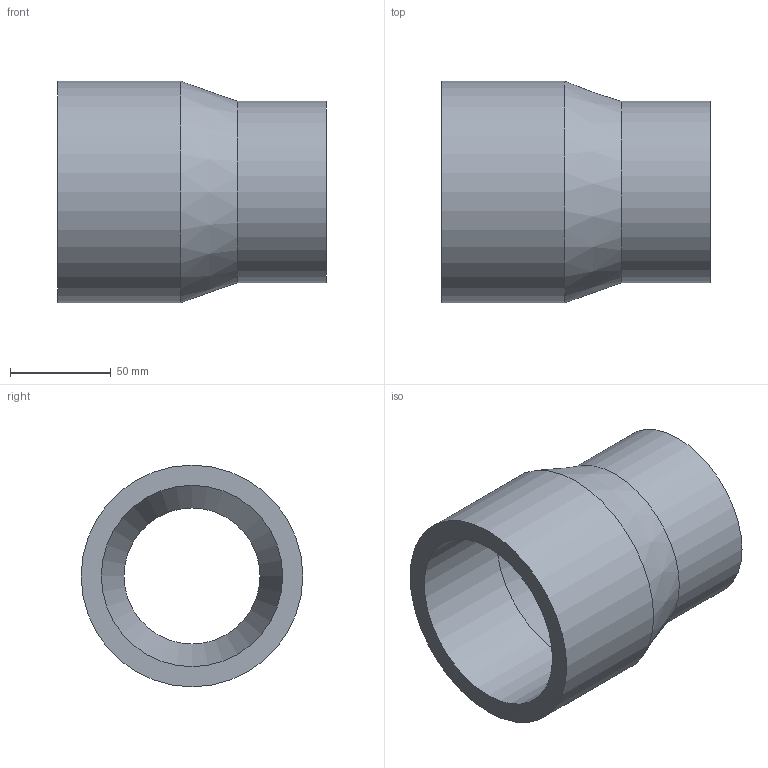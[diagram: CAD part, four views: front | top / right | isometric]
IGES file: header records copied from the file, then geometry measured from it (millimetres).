
Global section: file name: 050200110075.ipt; native system: Autodesk Inventor 2015; preprocessor: unknown; author: KIM; date: 20171207.164227; units: millimetre
Bounding box: 133 x 110 x 110 mm (x, y, z)
Volume: 383698.1 mm3; surface area: 83227 mm2
Topology: 1 solids, 1 shells, 10 faces, 23 edges, 16 vertices
Faces by surface type: revolution 4, plane 3, cylinder 2, cone 1
Full cylindrical faces by diameter (mm): 90 x1, 110 x1
